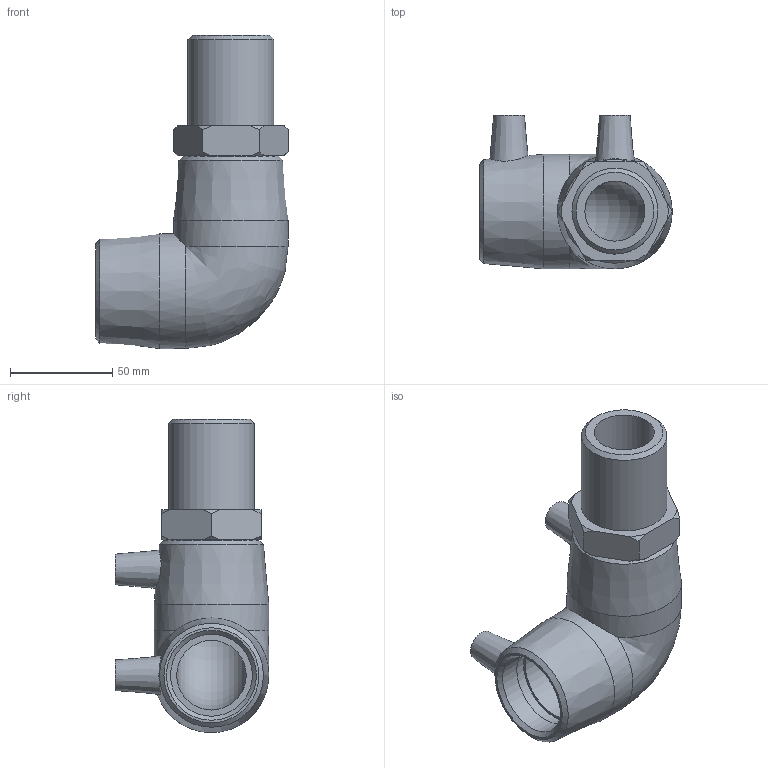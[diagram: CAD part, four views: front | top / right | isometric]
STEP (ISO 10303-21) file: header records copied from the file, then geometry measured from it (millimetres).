
FILE_DESCRIPTION(/* description */ ('PLASSON 90° ELBOW MALE TRANSITION 40 x 11⁄4"'),/* implementation_level */ '2;1');
FILE_NAME(/* name */ 'C:\Dropbox\KIMPROJECTS-Inventor\99-16-3568-Processing\ElectroFusion Fittings\02.02.20\492504\492504040013N.ipt.stp',/* time_stamp */ '2020-02-02T12:19:23+02:00',/* author */ ('KIM'),/* organization */ (''),/* preprocessor_version */ 'ST-DEVELOPER v15.6',/* originating_system */ 'Autodesk Inventor 2015',/* authorisation */ '');
FILE_SCHEMA (('AUTOMOTIVE_DESIGN { 1 0 10303 214 3 1 1 }'));
Length unit declared in the file: millimetre
Products named in the file (1): 492504040013N
Bounding box: 94 x 75 x 153 mm (x, y, z)
Volume: 226478.7 mm3; surface area: 56706.2 mm2
Topology: 1 solids, 2 shells, 59 faces, 134 edges, 87 vertices
Faces by surface type: plane 22, cone 22, cylinder 13, bspline 1, torus 1
Full cylindrical faces by diameter (mm): 4 x2, 10 x2, 29.337 x1, 30 x1, 40 x4, 41.91 x1, 56 x2
Entity records: 1514 total; most frequent: CARTESIAN_POINT 371, DIRECTION 238, ORIENTED_EDGE 190, AXIS2_PLACEMENT_3D 110, EDGE_LOOP 99, EDGE_CURVE 95, VERTEX_POINT 76, FACE_OUTER_BOUND 59
